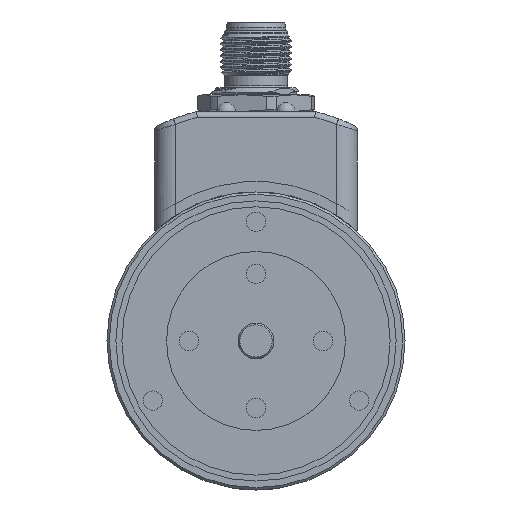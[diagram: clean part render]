
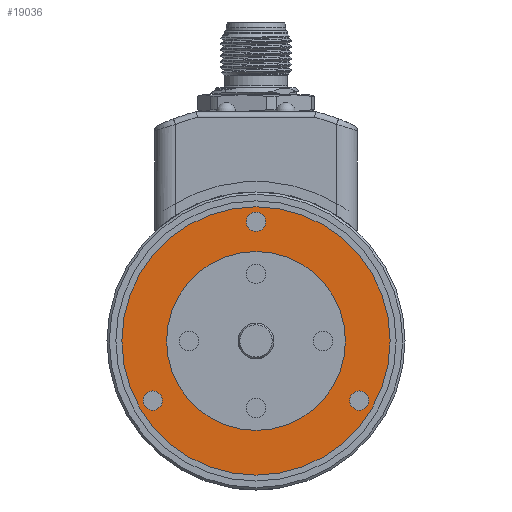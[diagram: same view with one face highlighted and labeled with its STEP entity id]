
A CAD part, left-side view. The second image highlights one B-rep face of the part: STEP entity #19036.
In plain terms, the highlighted planar face has unit normal (-1, 0, 0).
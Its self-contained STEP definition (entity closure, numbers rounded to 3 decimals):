
#3139=PLANE('',#20078);
#3702=ORIENTED_EDGE('',*,*,#7829,.T.);
#3703=ORIENTED_EDGE('',*,*,#7830,.T.);
#3704=ORIENTED_EDGE('',*,*,#7831,.T.);
#3705=ORIENTED_EDGE('',*,*,#7832,.F.);
#3706=ORIENTED_EDGE('',*,*,#7828,.T.);
#7828=EDGE_CURVE('',#9898,#9898,#11331,.T.);
#7829=EDGE_CURVE('',#9899,#9899,#11332,.T.);
#7830=EDGE_CURVE('',#9900,#9900,#11333,.T.);
#7831=EDGE_CURVE('',#9901,#9901,#11334,.T.);
#7832=EDGE_CURVE('',#9902,#9902,#11335,.T.);
#9898=VERTEX_POINT('',#25583);
#9899=VERTEX_POINT('',#25586);
#9900=VERTEX_POINT('',#25588);
#9901=VERTEX_POINT('',#25590);
#9902=VERTEX_POINT('',#25592);
#11331=CIRCLE('',#20077,22.5);
#11332=CIRCLE('',#20079,1.621);
#11333=CIRCLE('',#20080,1.621);
#11334=CIRCLE('',#20081,1.621);
#11335=CIRCLE('',#20082,15.);
#11861=EDGE_LOOP('',(#3702));
#11862=EDGE_LOOP('',(#3703));
#11863=EDGE_LOOP('',(#3704));
#11864=EDGE_LOOP('',(#3705));
#11865=EDGE_LOOP('',(#3706));
#13117=FACE_BOUND('',#11861,.T.);
#13118=FACE_BOUND('',#11862,.T.);
#13119=FACE_BOUND('',#11863,.T.);
#13120=FACE_BOUND('',#11864,.T.);
#13121=FACE_BOUND('',#11865,.T.);
#19036=ADVANCED_FACE('',(#13117,#13118,#13119,#13120,#13121),#3139,.F.);
#20077=AXIS2_PLACEMENT_3D('',#25582,#21540,#21541);
#20078=AXIS2_PLACEMENT_3D('',#25584,#21542,#21543);
#20079=AXIS2_PLACEMENT_3D('',#25585,#21544,#21545);
#20080=AXIS2_PLACEMENT_3D('',#25587,#21546,#21547);
#20081=AXIS2_PLACEMENT_3D('',#25589,#21548,#21549);
#20082=AXIS2_PLACEMENT_3D('',#25591,#21550,#21551);
#21540=DIRECTION('',(-1.,0.,0.));
#21541=DIRECTION('',(0.,0.,1.));
#21542=DIRECTION('',(1.,0.,0.));
#21543=DIRECTION('',(0.,0.,-1.));
#21544=DIRECTION('',(1.,0.,0.));
#21545=DIRECTION('',(0.,0.,1.));
#21546=DIRECTION('',(1.,0.,0.));
#21547=DIRECTION('',(0.,0.,1.));
#21548=DIRECTION('',(1.,0.,0.));
#21549=DIRECTION('',(0.,0.,1.));
#21550=DIRECTION('',(-1.,0.,0.));
#21551=DIRECTION('',(0.,0.,1.));
#25582=CARTESIAN_POINT('',(-8.,0.,0.));
#25583=CARTESIAN_POINT('',(-8.,0.,22.5));
#25584=CARTESIAN_POINT('',(-8.,0.,22.5));
#25585=CARTESIAN_POINT('',(-8.,-17.321,-10.));
#25586=CARTESIAN_POINT('',(-8.,-17.321,-8.379));
#25587=CARTESIAN_POINT('',(-8.,17.321,-10.));
#25588=CARTESIAN_POINT('',(-8.,17.321,-8.379));
#25589=CARTESIAN_POINT('',(-8.,0.,20.));
#25590=CARTESIAN_POINT('',(-8.,0.,21.621));
#25591=CARTESIAN_POINT('',(-8.,0.,0.));
#25592=CARTESIAN_POINT('',(-8.,0.,15.));
